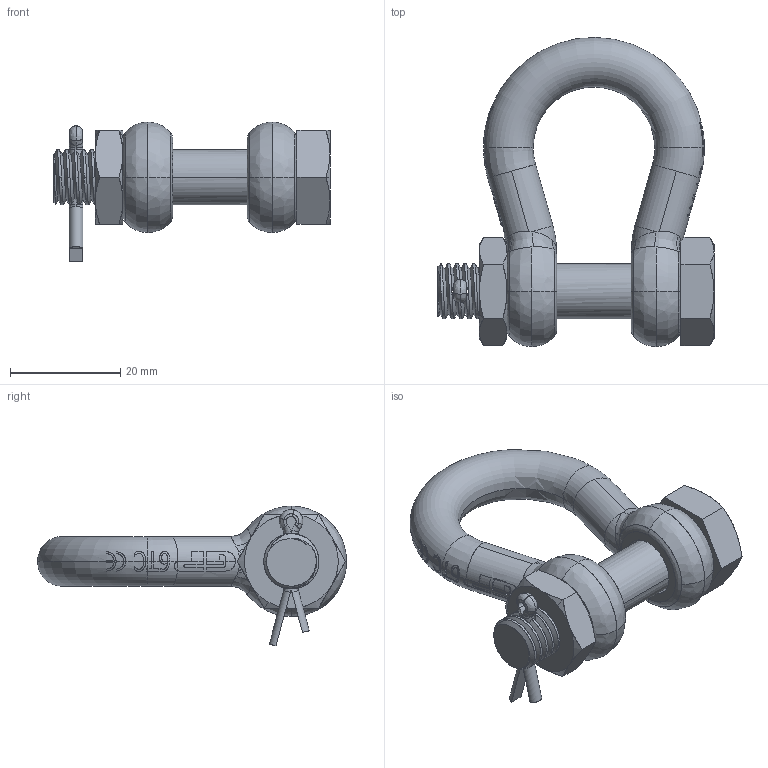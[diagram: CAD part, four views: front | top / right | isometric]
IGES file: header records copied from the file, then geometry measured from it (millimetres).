
Start section: START RECORD GO HERE.
Global section: file name: 0,75.igs; native system: IBM CATIA IGES - CATIA Vers                 ; preprocessor: Solidworks 2009            ; author: v.b.; organization: P4; date: 20090807.082637; units: millimetre
Bounding box: 50 x 56 x 25.31 mm (x, y, z)
Surface area: 8206.7 mm2 (no closed solid volume)
Topology: 0 solids, 0 shells, 445 faces, 3063 edges, 3055 vertices
Faces by surface type: bspline 167, revolution 158, plane 120
